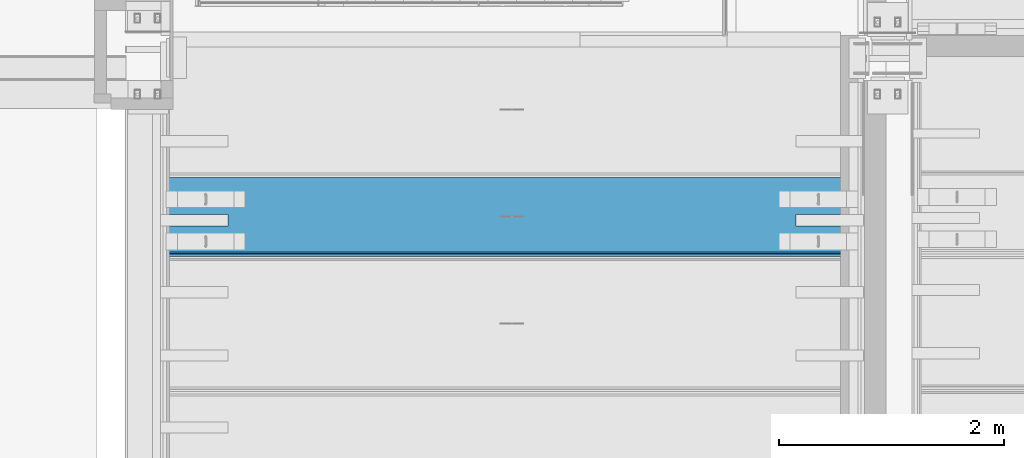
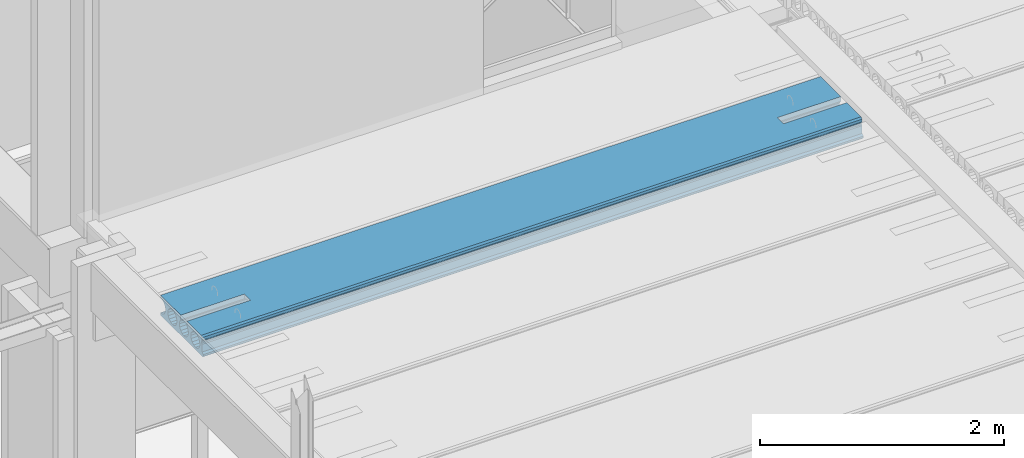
# One storey, part 83 of 230: 1 beam.
"""IFC4X3_ADD2 building model written with IfcOpenShell, lengths in millimetres."""

from ifc_helpers import new_model, si_unit, direction, origin_with_axes, place, context, subcontext, project, spatial, polygons, element, save


model = new_model("IFC4X3_ADD2")

# Units and contexts
model_context = context("Model", 3, precision=1e-05, world=origin_with_axes(), true_north=direction((0.0, 1.0)))
body_context = subcontext(model_context, "Body", "Model", "MODEL_VIEW")
ifc_project = project(units=[si_unit("LENGTHUNIT", "METRE", prefix="MILLI"), si_unit("AREAUNIT", "SQUARE_METRE"), si_unit("VOLUMEUNIT", "CUBIC_METRE"), si_unit("PLANEANGLEUNIT", "RADIAN"), si_unit("TIMEUNIT", "SECOND"), si_unit("MASSUNIT", "GRAM")], contexts=[model_context])

# Site, building, storey
site_placement = place(None, origin_with_axes())
site = spatial("IfcSite", under=ifc_project, at=site_placement, Name="Site", CompositionType="ELEMENT")
building_placement = place(site_placement, origin_with_axes())
building = spatial("IfcBuilding", under=site, at=building_placement, Name="IFC Building Story")
storey_placement = place(building_placement, origin_with_axes())
storey = spatial("IfcBuildingStorey", under=building, at=storey_placement, Name="ETAGE 00 (0)", Elevation=0.0)

# Beam
beam_placement = place(storey_placement, origin_with_axes())
element("IfcBeam", 1, at=beam_placement, inside=storey, Name="HOLLOWCORE SLAB", ObjectType="EB_SP200", context=body_context, shape_type="Tessellation", body=[
    polygons([(33515.6922247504, -1548.99975261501, 3999.9999909), (33515.6922247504, -1559.99975261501, 4012.9999909), (33515.6922247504, -1559.99975261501, 4029.9999909), (33515.6922247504, -1539.99975261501, 4044.9999909), (33515.6922247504, -1538.549740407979, 4119.9999909), (33515.6922247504, -1531.017131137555, 4128.676139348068), (33515.6922247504, -1528.159822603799, 4139.805000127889), (33515.6922247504, -1530.581116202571, 4151.036789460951), (33515.6922247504, -1537.76977214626, 4159.9999909), (33515.6922247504, -1537.288456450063, 4185.002769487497), (33515.6922247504, -1521.99975261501, 4199.9999909), (33515.6922247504, -1289.99975261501, 4199.9999909), (33515.6922247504, -1289.99975261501, 4155.806158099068), (33515.6922247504, -1294.679207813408, 4152.679446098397), (33515.6922247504, -1310.828777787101, 4128.509906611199), (33515.6922247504, -1316.49975261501, 4099.9999909), (33515.6922247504, -1310.828777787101, 4071.490075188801), (33515.6922247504, -1294.679207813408, 4047.320535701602), (33515.6922247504, -1270.509668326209, 4031.170965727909), (33515.6922247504, -1241.99975261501, 4025.4999909), (33515.6922247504, -1213.489836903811, 4031.170965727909), (33515.6922247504, -1189.320297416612, 4047.320535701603), (33515.6922247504, -1173.170727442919, 4071.490075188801), (33515.6922247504, -1167.49975261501, 4099.9999909), (33515.6922247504, -1173.170727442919, 4128.509906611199), (33515.6922247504, -1189.320297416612, 4152.679446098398), (33515.6922247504, -1189.99975261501, 4153.13344354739), (33515.6922247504, -1189.99975261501, 4199.9999909), (33515.6922247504, -859.9997711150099, 4199.9999909), (33515.6922247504, -859.9997711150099, 4173.306520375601), (33515.6922247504, -865.9997526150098, 4174.4999909), (33515.6922247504, -894.509668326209, 4168.829016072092), (33515.6922247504, -918.6792078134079, 4152.679446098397), (33515.6922247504, -934.8287777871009, 4128.509906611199), (33515.6922247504, -940.4997526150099, 4099.9999909), (33515.6922247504, -934.8287777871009, 4071.490075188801), (33515.6922247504, -918.6792078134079, 4047.320535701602), (33515.6922247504, -894.509668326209, 4031.170965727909), (33515.6922247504, -865.9997526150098, 4025.4999909), (33515.6922247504, -859.9997711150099, 4026.693461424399), (33515.6922247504, -859.9997711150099, 3999.9999909), (33515.6922247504, -1001.320297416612, 4152.679446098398), (33515.6922247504, -1025.489836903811, 4168.829016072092), (33515.6922247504, -1053.99975261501, 4174.4999909), (33515.6922247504, -1082.509668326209, 4168.829016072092), (33515.6922247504, -1106.679207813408, 4152.679446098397), (33515.6922247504, -1122.828777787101, 4128.509906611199), (33515.6922247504, -1128.49975261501, 4099.9999909), (33515.6922247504, -1122.828777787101, 4071.490075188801), (33515.6922247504, -1106.679207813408, 4047.320535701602), (33515.6922247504, -1082.509668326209, 4031.170965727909), (33515.6922247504, -1053.99975261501, 4025.4999909), (33515.6922247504, -1025.489836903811, 4031.170965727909), (33515.6922247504, -1001.320297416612, 4047.320535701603), (33515.6922247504, -985.170727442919, 4071.490075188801), (33515.6922247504, -979.4997526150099, 4099.9999909), (33515.6922247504, -985.170727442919, 4128.509906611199), (33515.6922247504, -1377.320297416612, 4152.679446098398), (33515.6922247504, -1401.489836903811, 4168.829016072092), (33515.6922247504, -1429.99975261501, 4174.4999909), (33515.6922247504, -1458.509668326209, 4168.829016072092), (33515.6922247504, -1482.679207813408, 4152.679446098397), (33515.6922247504, -1498.828777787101, 4128.509906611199), (33515.6922247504, -1504.49975261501, 4099.9999909), (33515.6922247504, -1498.828777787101, 4071.490075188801), (33515.6922247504, -1482.679207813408, 4047.320535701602), (33515.6922247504, -1458.509668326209, 4031.170965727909), (33515.6922247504, -1429.99975261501, 4025.4999909), (33515.6922247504, -1401.489836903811, 4031.170965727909), (33515.6922247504, -1377.320297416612, 4047.320535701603), (33515.6922247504, -1361.170727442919, 4071.490075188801), (33515.6922247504, -1355.49975261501, 4099.9999909), (33515.6922247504, -1361.170727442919, 4128.509906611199), (39750.6922247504, -1189.99975261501, 4199.9999909), (39750.6922247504, -1189.99975261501, 4153.13344354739), (39750.6922247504, -1189.320297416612, 4152.679446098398), (39750.6922247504, -1173.170727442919, 4128.509906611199), (39750.6922247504, -1167.49975261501, 4099.9999909), (39750.6922247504, -1173.170727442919, 4071.490075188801), (39750.6922247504, -1189.320297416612, 4047.320535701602), (39750.6922247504, -1213.489836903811, 4031.170965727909), (39750.6922247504, -1241.99975261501, 4025.4999909), (39750.6922247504, -1270.509668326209, 4031.170965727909), (39750.6922247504, -1294.679207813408, 4047.320535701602), (39750.6922247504, -1310.828777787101, 4071.490075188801), (39750.6922247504, -1316.49975261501, 4099.9999909), (39750.6922247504, -1310.828777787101, 4128.509906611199), (39750.6922247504, -1294.679207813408, 4152.679446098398), (39750.6922247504, -1289.99975261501, 4155.806158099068), (39750.6922247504, -1289.99975261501, 4199.9999909), (39750.6922247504, -1521.99975261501, 4199.9999909), (39750.6922247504, -1537.288456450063, 4185.002769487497), (39750.6922247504, -1537.76977214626, 4159.9999909), (39750.6922247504, -1530.581116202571, 4151.036789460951), (39750.6922247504, -1528.159822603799, 4139.805000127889), (39750.6922247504, -1531.017131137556, 4128.676139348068), (39750.6922247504, -1538.549740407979, 4119.9999909), (39750.6922247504, -1539.99975261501, 4044.9999909), (39750.6922247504, -1559.99975261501, 4029.9999909), (39750.6922247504, -1559.99975261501, 4012.9999909), (39750.6922247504, -1548.99975261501, 3999.9999909), (39750.6922247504, -859.9997711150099, 3999.9999909), (39750.6922247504, -859.9997711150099, 4026.693461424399), (39750.6922247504, -865.9997526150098, 4025.4999909), (39750.6922247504, -894.509668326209, 4031.170965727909), (39750.6922247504, -918.6792078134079, 4047.320535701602), (39750.6922247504, -934.8287777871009, 4071.490075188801), (39750.6922247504, -940.4997526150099, 4099.9999909), (39750.6922247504, -934.8287777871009, 4128.509906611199), (39750.6922247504, -918.6792078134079, 4152.679446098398), (39750.6922247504, -894.509668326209, 4168.829016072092), (39750.6922247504, -865.9997526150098, 4174.4999909), (39750.6922247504, -859.9997711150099, 4173.306520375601), (39750.6922247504, -859.9997711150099, 4199.9999909), (39750.6922247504, -1001.320297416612, 4152.679446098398), (39750.6922247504, -985.170727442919, 4128.509906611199), (39750.6922247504, -979.4997526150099, 4099.9999909), (39750.6922247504, -985.170727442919, 4071.490075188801), (39750.6922247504, -1001.320297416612, 4047.320535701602), (39750.6922247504, -1025.489836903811, 4031.170965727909), (39750.6922247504, -1053.99975261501, 4025.4999909), (39750.6922247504, -1082.509668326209, 4031.170965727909), (39750.6922247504, -1106.679207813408, 4047.320535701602), (39750.6922247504, -1122.828777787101, 4071.490075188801), (39750.6922247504, -1128.49975261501, 4099.9999909), (39750.6922247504, -1122.828777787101, 4128.509906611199), (39750.6922247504, -1106.679207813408, 4152.679446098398), (39750.6922247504, -1082.509668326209, 4168.829016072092), (39750.6922247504, -1053.99975261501, 4174.4999909), (39750.6922247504, -1025.489836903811, 4168.829016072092), (39750.6922247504, -1377.320297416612, 4152.679446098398), (39750.6922247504, -1361.170727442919, 4128.509906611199), (39750.6922247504, -1355.49975261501, 4099.9999909), (39750.6922247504, -1361.170727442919, 4071.490075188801), (39750.6922247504, -1377.320297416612, 4047.320535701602), (39750.6922247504, -1401.489836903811, 4031.170965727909), (39750.6922247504, -1429.99975261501, 4025.4999909), (39750.6922247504, -1458.509668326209, 4031.170965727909), (39750.6922247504, -1482.679207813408, 4047.320535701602), (39750.6922247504, -1498.828777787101, 4071.490075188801), (39750.6922247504, -1504.49975261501, 4099.9999909), (39750.6922247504, -1498.828777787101, 4128.509906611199), (39750.6922247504, -1482.679207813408, 4152.679446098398), (39750.6922247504, -1458.509668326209, 4168.829016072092), (39750.6922247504, -1429.99975261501, 4174.4999909), (39750.6922247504, -1401.489836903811, 4168.829016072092), (39150.69222475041, -1289.99975261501, 4199.9999909), (39150.69222475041, -1189.99975261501, 4199.9999909), (34115.6922247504, -1189.99975261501, 4199.9999909), (34115.6922247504, -1289.99975261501, 4199.9999909), (39150.69222475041, -1189.99975261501, 4153.13344354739), (39150.69222475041, -1213.489836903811, 4168.829016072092), (34115.6922247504, -1213.489836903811, 4168.829016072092), (34115.6922247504, -1189.99975261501, 4153.13344354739), (39150.69222475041, -1241.99975261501, 4174.4999909), (34115.6922247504, -1241.99975261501, 4174.4999909), (39150.69222475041, -1270.509668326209, 4168.829016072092), (34115.6922247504, -1270.509668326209, 4168.829016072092), (34115.6922247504, -1289.99975261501, 4155.806158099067), (39150.69222475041, -1289.99975261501, 4155.806158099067), (39150.69222475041, -1189.99975261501, 4199.999996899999), (39150.69222475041, -1289.99975261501, 4199.999996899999), (34115.6922247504, -1289.99975261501, 4199.999996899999), (34115.6922247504, -1189.99975261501, 4199.999996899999)], [[[26, 27, 28]], [[45, 46, 25]], [[45, 25, 26]], [[45, 26, 28]], [[28, 44, 45]], [[44, 28, 29]], [[29, 43, 44]], [[29, 42, 43]], [[47, 48, 24]], [[47, 24, 25]], [[25, 46, 47]], [[49, 50, 23]], [[23, 24, 48]], [[23, 48, 49]], [[50, 22, 23]], [[32, 33, 57]], [[32, 57, 42]], [[32, 42, 29]], [[29, 31, 32]], [[29, 30, 31]], [[34, 35, 56]], [[34, 56, 57]], [[57, 33, 34]], [[36, 37, 55]], [[55, 56, 35]], [[55, 35, 36]], [[39, 40, 41]], [[41, 38, 39]], [[41, 54, 55]], [[41, 55, 37]], [[41, 37, 38]], [[41, 53, 54]], [[41, 52, 53]], [[41, 21, 52]], [[21, 51, 52]], [[21, 22, 50]], [[21, 50, 51]], [[41, 20, 21]], [[41, 1, 20]], [[1, 19, 20]], [[1, 18, 19]], [[8, 9, 10]], [[8, 10, 11]], [[62, 63, 7]], [[62, 7, 8]], [[8, 11, 61]], [[8, 61, 62]], [[11, 60, 61]], [[60, 11, 12]], [[12, 59, 60]], [[12, 58, 59]], [[63, 6, 7]], [[65, 66, 4]], [[4, 5, 64]], [[4, 64, 65]], [[5, 6, 63]], [[5, 63, 64]], [[69, 70, 17]], [[69, 17, 18]], [[18, 68, 69]], [[18, 1, 68]], [[1, 67, 68]], [[1, 4, 66]], [[1, 66, 67]], [[1, 2, 3]], [[1, 3, 4]], [[71, 72, 16]], [[71, 16, 17]], [[17, 70, 71]], [[73, 58, 15]], [[15, 16, 72]], [[15, 72, 73]], [[58, 12, 14]], [[58, 14, 15]], [[12, 13, 14]], [[98, 99, 100]], [[98, 100, 101]], [[112, 113, 114]], [[114, 111, 112]], [[114, 110, 111]], [[110, 114, 115]], [[115, 109, 110]], [[116, 117, 108]], [[116, 108, 109]], [[109, 115, 116]], [[117, 118, 107]], [[117, 107, 108]], [[118, 106, 107]], [[130, 115, 114]], [[114, 129, 130]], [[114, 74, 129]], [[74, 128, 129]], [[74, 127, 128]], [[74, 75, 126]], [[74, 126, 127]], [[77, 78, 125]], [[77, 125, 126]], [[126, 76, 77]], [[126, 75, 76]], [[79, 80, 124]], [[124, 125, 78]], [[124, 78, 79]], [[80, 123, 124]], [[88, 89, 90]], [[90, 131, 87]], [[90, 87, 88]], [[132, 133, 86]], [[132, 86, 87]], [[87, 131, 132]], [[134, 135, 85]], [[85, 86, 133]], [[85, 133, 134]], [[141, 142, 96]], [[141, 96, 97]], [[97, 98, 140]], [[97, 140, 141]], [[98, 101, 139]], [[98, 139, 140]], [[101, 138, 139]], [[101, 137, 138]], [[101, 136, 137]], [[101, 84, 136]], [[84, 85, 135]], [[84, 135, 136]], [[101, 83, 84]], [[101, 82, 83]], [[101, 122, 82]], [[122, 81, 82]], [[122, 123, 80]], [[122, 80, 81]], [[101, 121, 122]], [[101, 102, 121]], [[102, 120, 121]], [[102, 119, 120]], [[102, 106, 118]], [[102, 118, 119]], [[102, 105, 106]], [[102, 104, 105]], [[102, 103, 104]], [[142, 95, 96]], [[146, 131, 90]], [[90, 145, 146]], [[90, 91, 145]], [[91, 144, 145]], [[91, 94, 143]], [[91, 143, 144]], [[94, 95, 142]], [[94, 142, 143]], [[91, 92, 93]], [[91, 93, 94]], [[101, 1, 41, 102]], [[2, 1, 101, 100]], [[3, 2, 100, 99]], [[4, 3, 99, 98]], [[5, 4, 98, 97]], [[6, 5, 97, 96]], [[7, 6, 96, 95]], [[8, 7, 95, 94]], [[9, 8, 94, 93]], [[10, 9, 93, 92]], [[11, 10, 92, 91]], [[148, 74, 114]], [[148, 114, 29]], [[29, 147, 148]], [[150, 12, 11]], [[150, 11, 91]], [[91, 149, 150]], [[91, 147, 29]], [[91, 29, 149]], [[29, 28, 149]], [[91, 90, 147]], [[112, 31, 30, 113]], [[32, 31, 112, 111]], [[33, 32, 111, 110]], [[34, 33, 110, 109]], [[35, 34, 109, 108]], [[36, 35, 108, 107]], [[37, 36, 107, 106]], [[38, 37, 106, 105]], [[39, 38, 105, 104]], [[39, 104, 103, 40]], [[43, 42, 115, 130]], [[44, 43, 130, 129]], [[45, 44, 129, 128]], [[46, 45, 128, 127]], [[47, 46, 127, 126]], [[48, 47, 126, 125]], [[49, 48, 125, 124]], [[50, 49, 124, 123]], [[51, 50, 123, 122]], [[52, 51, 122, 121]], [[53, 52, 121, 120]], [[54, 53, 120, 119]], [[55, 54, 119, 118]], [[56, 55, 118, 117]], [[57, 56, 117, 116]], [[42, 57, 116, 115]], [[154, 27, 26]], [[154, 26, 151]], [[151, 152, 153]], [[151, 153, 154]], [[26, 76, 151]], [[76, 75, 151]], [[153, 152, 155, 156]], [[156, 155, 157, 158]], [[160, 89, 88]], [[160, 88, 159]], [[159, 158, 157]], [[159, 157, 160]], [[88, 14, 159]], [[14, 13, 159]], [[15, 14, 88, 87]], [[16, 15, 87, 86]], [[17, 16, 86, 85]], [[18, 17, 85, 84]], [[19, 18, 84, 83]], [[20, 19, 83, 82]], [[21, 20, 82, 81]], [[22, 21, 81, 80]], [[23, 22, 80, 79]], [[24, 23, 79, 78]], [[25, 24, 78, 77]], [[26, 25, 77, 76]], [[59, 58, 131, 146]], [[60, 59, 146, 145]], [[61, 60, 145, 144]], [[62, 61, 144, 143]], [[63, 62, 143, 142]], [[64, 63, 142, 141]], [[65, 64, 141, 140]], [[66, 65, 140, 139]], [[67, 66, 139, 138]], [[68, 67, 138, 137]], [[69, 68, 137, 136]], [[70, 69, 136, 135]], [[71, 70, 135, 134]], [[72, 71, 134, 133]], [[73, 72, 133, 132]], [[58, 73, 132, 131]], [[90, 89, 160, 147]], [[75, 74, 161, 151]], [[152, 151, 148]], [[148, 162, 155]], [[148, 155, 152]], [[162, 157, 155]], [[162, 160, 157]], [[28, 27, 154, 149]], [[13, 12, 163, 159]], [[158, 159, 150]], [[150, 156, 158]], [[150, 164, 153]], [[150, 153, 156]], [[164, 154, 153]], [[30, 29, 114, 113]], [[41, 40, 103, 102]]]),
])

save(model, "model.ifc")
